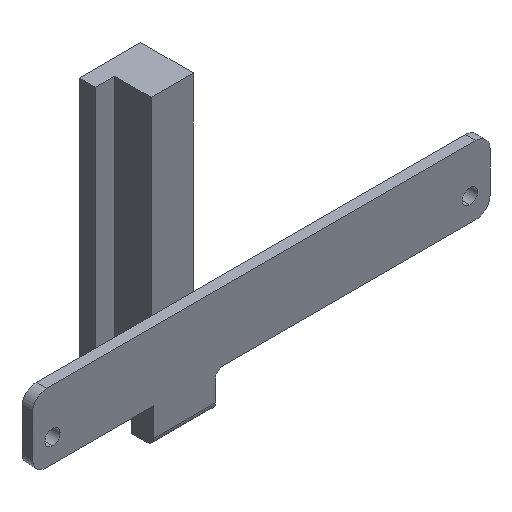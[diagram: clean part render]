
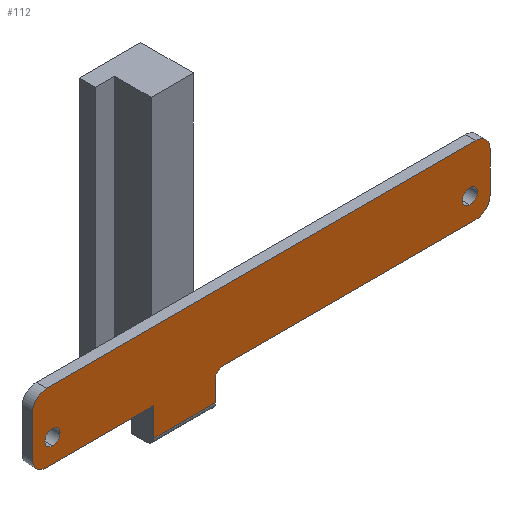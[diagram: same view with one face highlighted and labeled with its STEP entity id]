
A CAD part, isometric view. The second image highlights one B-rep face of the part: STEP entity #112.
In plain terms, the highlighted planar face has unit normal (0, -1, 0).
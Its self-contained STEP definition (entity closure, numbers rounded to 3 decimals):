
#2 = DIRECTION ( 'NONE',  ( 1., 0., 0. ) ) ;
#6 = CARTESIAN_POINT ( 'NONE',  ( -65., 0., 9.75 ) ) ;
#19 = EDGE_CURVE ( 'NONE', #492, #45, #801, .T. ) ;
#20 = CIRCLE ( 'NONE', #741, 4. ) ;
#36 = AXIS2_PLACEMENT_3D ( 'NONE', #814, #834, #439 ) ;
#44 = CARTESIAN_POINT ( 'NONE',  ( -11., 0., -11.75 ) ) ;
#45 = VERTEX_POINT ( 'NONE', #524 ) ;
#46 = DIRECTION ( 'NONE',  ( 0., 0., -1. ) ) ;
#48 = DIRECTION ( 'NONE',  ( 0., 0., -1. ) ) ;
#62 = DIRECTION ( 'NONE',  ( 0., 0., 1. ) ) ;
#66 = VECTOR ( 'NONE', #131, 1000. ) ;
#70 = CARTESIAN_POINT ( 'NONE',  ( -30.5, 0., -9.75 ) ) ;
#75 = CARTESIAN_POINT ( 'NONE',  ( 59.325, 0., -3.09 ) ) ;
#76 = CIRCLE ( 'NONE', #449, 2.15 ) ;
#88 = VERTEX_POINT ( 'NONE', #230 ) ;
#102 = CARTESIAN_POINT ( 'NONE',  ( 59.325, 0., -0.94 ) ) ;
#105 = CARTESIAN_POINT ( 'NONE',  ( -30.5, 0., -17.75 ) ) ;
#112 = ADVANCED_FACE ( 'NONE', ( #784, #850, #167 ), #774, .T. ) ;
#115 = ORIENTED_EDGE ( 'NONE', *, *, #602, .F. ) ;
#118 = VERTEX_POINT ( 'NONE', #102 ) ;
#130 = CARTESIAN_POINT ( 'NONE',  ( 59.325, 0., -3.09 ) ) ;
#131 = DIRECTION ( 'NONE',  ( -1., 0., 0. ) ) ;
#139 = CARTESIAN_POINT ( 'NONE',  ( -61., 0., -5.75 ) ) ;
#140 = CARTESIAN_POINT ( 'NONE',  ( 0., 0., -17.75 ) ) ;
#157 = DIRECTION ( 'NONE',  ( 0., 0., -1. ) ) ;
#166 = AXIS2_PLACEMENT_3D ( 'NONE', #44, #940, #48 ) ;
#167 = FACE_OUTER_BOUND ( 'NONE', #740, .T. ) ;
#171 = VERTEX_POINT ( 'NONE', #845 ) ;
#175 = CARTESIAN_POINT ( 'NONE',  ( -61., 0., 5.75 ) ) ;
#180 = ORIENTED_EDGE ( 'NONE', *, *, #349, .F. ) ;
#190 = DIRECTION ( 'NONE',  ( 0., 0., 1. ) ) ;
#198 = CIRCLE ( 'NONE', #407, 4. ) ;
#200 = DIRECTION ( 'NONE',  ( 0., -1., 0. ) ) ;
#210 = LINE ( 'NONE', #812, #66 ) ;
#212 = CIRCLE ( 'NONE', #777, 4. ) ;
#215 = DIRECTION ( 'NONE',  ( 0., 0., 1. ) ) ;
#221 = VERTEX_POINT ( 'NONE', #273 ) ;
#230 = CARTESIAN_POINT ( 'NONE',  ( -13., 0., -17.75 ) ) ;
#244 = CIRCLE ( 'NONE', #400, 2.15 ) ;
#257 = LINE ( 'NONE', #883, #757 ) ;
#266 = VECTOR ( 'NONE', #2, 1000. ) ;
#269 = CARTESIAN_POINT ( 'NONE',  ( -65., 0., 9.75 ) ) ;
#270 = ORIENTED_EDGE ( 'NONE', *, *, #810, .T. ) ;
#273 = CARTESIAN_POINT ( 'NONE',  ( -61., 0., -9.75 ) ) ;
#275 = EDGE_CURVE ( 'NONE', #911, #88, #257, .T. ) ;
#276 = ORIENTED_EDGE ( 'NONE', *, *, #737, .F. ) ;
#297 = CARTESIAN_POINT ( 'NONE',  ( 61., 0., 9.75 ) ) ;
#301 = DIRECTION ( 'NONE',  ( 0., 0., 1. ) ) ;
#308 = AXIS2_PLACEMENT_3D ( 'NONE', #139, #764, #905 ) ;
#311 = CARTESIAN_POINT ( 'NONE',  ( -59.325, 0., -0.94 ) ) ;
#314 = DIRECTION ( 'NONE',  ( 0., 0., -1. ) ) ;
#317 = ORIENTED_EDGE ( 'NONE', *, *, #19, .F. ) ;
#337 = VERTEX_POINT ( 'NONE', #411 ) ;
#340 = CARTESIAN_POINT ( 'NONE',  ( -59.325, 0., -3.09 ) ) ;
#349 = EDGE_CURVE ( 'NONE', #337, #413, #494, .T. ) ;
#364 = ORIENTED_EDGE ( 'NONE', *, *, #768, .T. ) ;
#365 = EDGE_CURVE ( 'NONE', #713, #118, #244, .T. ) ;
#369 = VECTOR ( 'NONE', #190, 1000. ) ;
#400 = AXIS2_PLACEMENT_3D ( 'NONE', #130, #738, #62 ) ;
#407 = AXIS2_PLACEMENT_3D ( 'NONE', #965, #200, #972 ) ;
#411 = CARTESIAN_POINT ( 'NONE',  ( 65., 0., 5.75 ) ) ;
#413 = VERTEX_POINT ( 'NONE', #971 ) ;
#420 = CARTESIAN_POINT ( 'NONE',  ( 61., 0., -5.75 ) ) ;
#429 = VERTEX_POINT ( 'NONE', #600 ) ;
#434 = EDGE_CURVE ( 'NONE', #429, #910, #521, .T. ) ;
#436 = CARTESIAN_POINT ( 'NONE',  ( -65., 0., -9.75 ) ) ;
#438 = VERTEX_POINT ( 'NONE', #70 ) ;
#439 = DIRECTION ( 'NONE',  ( 0., 0., -1. ) ) ;
#443 = CARTESIAN_POINT ( 'NONE',  ( 59.325, 0., -5.24 ) ) ;
#444 = ORIENTED_EDGE ( 'NONE', *, *, #365, .F. ) ;
#449 = AXIS2_PLACEMENT_3D ( 'NONE', #75, #823, #215 ) ;
#458 = EDGE_CURVE ( 'NONE', #685, #221, #907, .T. ) ;
#472 = ORIENTED_EDGE ( 'NONE', *, *, #458, .T. ) ;
#484 = VECTOR ( 'NONE', #878, 1000. ) ;
#489 = LINE ( 'NONE', #269, #691 ) ;
#492 = VERTEX_POINT ( 'NONE', #311 ) ;
#494 = LINE ( 'NONE', #954, #484 ) ;
#496 = CIRCLE ( 'NONE', #727, 2.15 ) ;
#499 = ORIENTED_EDGE ( 'NONE', *, *, #561, .T. ) ;
#521 = LINE ( 'NONE', #436, #580 ) ;
#522 = CARTESIAN_POINT ( 'NONE',  ( -65., 0., -5.75 ) ) ;
#524 = CARTESIAN_POINT ( 'NONE',  ( -59.325, 0., -5.24 ) ) ;
#533 = EDGE_LOOP ( 'NONE', ( #115, #317 ) ) ;
#534 = DIRECTION ( 'NONE',  ( 0., -1., 0. ) ) ;
#546 = VERTEX_POINT ( 'NONE', #105 ) ;
#561 = EDGE_CURVE ( 'NONE', #915, #171, #20, .T. ) ;
#568 = AXIS2_PLACEMENT_3D ( 'NONE', #781, #534, #314 ) ;
#569 = EDGE_CURVE ( 'NONE', #546, #438, #865, .T. ) ;
#575 = EDGE_LOOP ( 'NONE', ( #444, #276 ) ) ;
#580 = VECTOR ( 'NONE', #811, 1000. ) ;
#600 = CARTESIAN_POINT ( 'NONE',  ( 61., 0., -9.75 ) ) ;
#602 = EDGE_CURVE ( 'NONE', #45, #492, #496, .T. ) ;
#625 = CIRCLE ( 'NONE', #166, 2. ) ;
#627 = EDGE_CURVE ( 'NONE', #915, #785, #489, .T. ) ;
#628 = ORIENTED_EDGE ( 'NONE', *, *, #802, .F. ) ;
#645 = ORIENTED_EDGE ( 'NONE', *, *, #627, .F. ) ;
#653 = EDGE_CURVE ( 'NONE', #911, #910, #625, .T. ) ;
#663 = LINE ( 'NONE', #6, #715 ) ;
#685 = VERTEX_POINT ( 'NONE', #522 ) ;
#691 = VECTOR ( 'NONE', #799, 1000. ) ;
#713 = VERTEX_POINT ( 'NONE', #443 ) ;
#715 = VECTOR ( 'NONE', #301, 1000. ) ;
#727 = AXIS2_PLACEMENT_3D ( 'NONE', #340, #879, #805 ) ;
#732 = DIRECTION ( 'NONE',  ( 0., -1., 0. ) ) ;
#737 = EDGE_CURVE ( 'NONE', #118, #713, #76, .T. ) ;
#738 = DIRECTION ( 'NONE',  ( 0., -1., 0. ) ) ;
#740 = EDGE_LOOP ( 'NONE', ( #769, #270, #852, #793, #933, #806, #180, #364, #645, #499, #824, #472, #628 ) ) ;
#741 = AXIS2_PLACEMENT_3D ( 'NONE', #175, #909, #157 ) ;
#757 = VECTOR ( 'NONE', #948, 1000. ) ;
#764 = DIRECTION ( 'NONE',  ( 0., -1., 0. ) ) ;
#768 = EDGE_CURVE ( 'NONE', #337, #785, #198, .T. ) ;
#769 = ORIENTED_EDGE ( 'NONE', *, *, #569, .F. ) ;
#774 = PLANE ( 'NONE',  #568 ) ;
#777 = AXIS2_PLACEMENT_3D ( 'NONE', #420, #732, #46 ) ;
#781 = CARTESIAN_POINT ( 'NONE',  ( 0., 0., 0. ) ) ;
#784 = FACE_BOUND ( 'NONE', #533, .T. ) ;
#785 = VERTEX_POINT ( 'NONE', #297 ) ;
#791 = CARTESIAN_POINT ( 'NONE',  ( -61., 0., 9.75 ) ) ;
#793 = ORIENTED_EDGE ( 'NONE', *, *, #653, .T. ) ;
#799 = DIRECTION ( 'NONE',  ( 1., 0., 0. ) ) ;
#801 = CIRCLE ( 'NONE', #36, 2.15 ) ;
#802 = EDGE_CURVE ( 'NONE', #438, #221, #210, .T. ) ;
#803 = CARTESIAN_POINT ( 'NONE',  ( -11., 0., -9.75 ) ) ;
#805 = DIRECTION ( 'NONE',  ( 0., 0., -1. ) ) ;
#806 = ORIENTED_EDGE ( 'NONE', *, *, #919, .T. ) ;
#810 = EDGE_CURVE ( 'NONE', #546, #88, #819, .T. ) ;
#811 = DIRECTION ( 'NONE',  ( -1., 0., 0. ) ) ;
#812 = CARTESIAN_POINT ( 'NONE',  ( -65., 0., -9.75 ) ) ;
#814 = CARTESIAN_POINT ( 'NONE',  ( -59.325, 0., -3.09 ) ) ;
#819 = LINE ( 'NONE', #140, #266 ) ;
#823 = DIRECTION ( 'NONE',  ( 0., -1., 0. ) ) ;
#824 = ORIENTED_EDGE ( 'NONE', *, *, #891, .F. ) ;
#834 = DIRECTION ( 'NONE',  ( 0., -1., 0. ) ) ;
#845 = CARTESIAN_POINT ( 'NONE',  ( -65., 0., 5.75 ) ) ;
#850 = FACE_BOUND ( 'NONE', #575, .T. ) ;
#852 = ORIENTED_EDGE ( 'NONE', *, *, #275, .F. ) ;
#861 = CARTESIAN_POINT ( 'NONE',  ( -30.5, 0., -9.75 ) ) ;
#865 = LINE ( 'NONE', #861, #369 ) ;
#878 = DIRECTION ( 'NONE',  ( 0., 0., -1. ) ) ;
#879 = DIRECTION ( 'NONE',  ( 0., -1., 0. ) ) ;
#883 = CARTESIAN_POINT ( 'NONE',  ( -13., 0., -9.75 ) ) ;
#891 = EDGE_CURVE ( 'NONE', #685, #171, #663, .T. ) ;
#905 = DIRECTION ( 'NONE',  ( 0., 0., -1. ) ) ;
#907 = CIRCLE ( 'NONE', #308, 4. ) ;
#909 = DIRECTION ( 'NONE',  ( 0., -1., 0. ) ) ;
#910 = VERTEX_POINT ( 'NONE', #803 ) ;
#911 = VERTEX_POINT ( 'NONE', #942 ) ;
#915 = VERTEX_POINT ( 'NONE', #791 ) ;
#919 = EDGE_CURVE ( 'NONE', #429, #413, #212, .T. ) ;
#933 = ORIENTED_EDGE ( 'NONE', *, *, #434, .F. ) ;
#940 = DIRECTION ( 'NONE',  ( 0., 1., 0. ) ) ;
#942 = CARTESIAN_POINT ( 'NONE',  ( -13., 0., -11.75 ) ) ;
#948 = DIRECTION ( 'NONE',  ( 0., 0., -1. ) ) ;
#954 = CARTESIAN_POINT ( 'NONE',  ( 65., 0., 9.75 ) ) ;
#965 = CARTESIAN_POINT ( 'NONE',  ( 61., 0., 5.75 ) ) ;
#971 = CARTESIAN_POINT ( 'NONE',  ( 65., 0., -5.75 ) ) ;
#972 = DIRECTION ( 'NONE',  ( 0., 0., -1. ) ) ;
